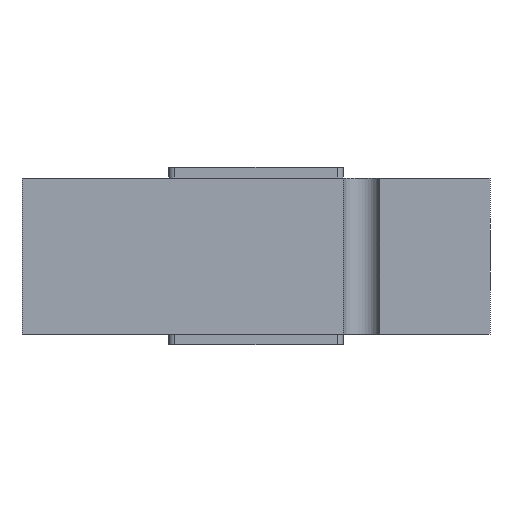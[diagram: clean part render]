
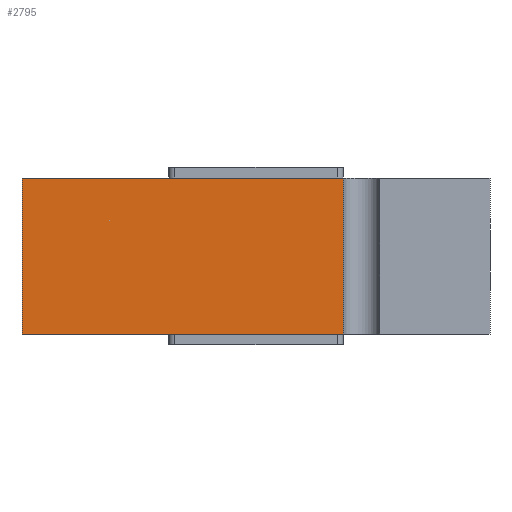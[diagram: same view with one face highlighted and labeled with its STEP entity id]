
A CAD part, left-side view. The second image highlights one B-rep face of the part: STEP entity #2795.
In plain terms, the highlighted planar face has unit normal (-1, 0, 0).
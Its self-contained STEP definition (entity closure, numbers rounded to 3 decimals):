
#52 = VERTEX_POINT ( 'NONE', #10252 ) ;
#83 = VERTEX_POINT ( 'NONE', #10296 ) ;
#84 = VERTEX_POINT ( 'NONE', #10291 ) ;
#96 = VERTEX_POINT ( 'NONE', #10350 ) ;
#1650 = ORIENTED_EDGE ( 'NONE', *, *, #6497, .T. ) ;
#1651 = ORIENTED_EDGE ( 'NONE', *, *, #6493, .F. ) ;
#1652 = ORIENTED_EDGE ( 'NONE', *, *, #6499, .F. ) ;
#1653 = ORIENTED_EDGE ( 'NONE', *, *, #6483, .T. ) ;
#1828 = EDGE_LOOP ( 'NONE', ( #1653, #1652, #1651, #1650 ) ) ;
#2073 = CARTESIAN_POINT ( 'NONE',  ( -50.8, 0., 0. ) ) ;
#2074 = DIRECTION ( 'NONE',  ( 0., -1., 0. ) ) ;
#2093 = DIRECTION ( 'NONE',  ( 0., 0., -1. ) ) ;
#2100 = CARTESIAN_POINT ( 'NONE',  ( -50.8, 0., 25.5 ) ) ;
#2101 = DIRECTION ( 'NONE',  ( 0., -1., 0. ) ) ;
#2103 = CARTESIAN_POINT ( 'NONE',  ( -50.8, -52.5, 25.5 ) ) ;
#2108 = CARTESIAN_POINT ( 'NONE',  ( -50.8, 0., 25.5 ) ) ;
#2109 = DIRECTION ( 'NONE',  ( 0., 0., -1. ) ) ;
#2795 = ADVANCED_FACE ( 'NONE', ( #3274 ), #5376, .F. ) ;
#3274 = FACE_OUTER_BOUND ( 'NONE', #1828, .T. ) ;
#5373 = CARTESIAN_POINT ( 'NONE',  ( -50.8, 0., 25.5 ) ) ;
#5376 = PLANE ( 'NONE',  #6557 ) ;
#5378 = DIRECTION ( 'NONE',  ( 1., 0., 0. ) ) ;
#5380 = DIRECTION ( 'NONE',  ( 0., 1., 0. ) ) ;
#6483 = EDGE_CURVE ( 'NONE', #96, #83, #10593, .T. ) ;
#6493 = EDGE_CURVE ( 'NONE', #52, #84, #10608, .T. ) ;
#6497 = EDGE_CURVE ( 'NONE', #52, #96, #10616, .T. ) ;
#6499 = EDGE_CURVE ( 'NONE', #84, #83, #10620, .T. ) ;
#6557 = AXIS2_PLACEMENT_3D ( 'NONE', #5373, #5378, #5380 ) ;
#10252 = CARTESIAN_POINT ( 'NONE',  ( -50.8, 0., 25.5 ) ) ;
#10291 = CARTESIAN_POINT ( 'NONE',  ( -50.8, -52.5, 25.5 ) ) ;
#10296 = CARTESIAN_POINT ( 'NONE',  ( -50.8, -52.5, 0. ) ) ;
#10350 = CARTESIAN_POINT ( 'NONE',  ( -50.8, 0., 0. ) ) ;
#10593 = LINE ( 'NONE', #2073, #10596 ) ;
#10596 = VECTOR ( 'NONE', #2074, 1000. ) ;
#10608 = LINE ( 'NONE', #2100, #10611 ) ;
#10611 = VECTOR ( 'NONE', #2101, 1000. ) ;
#10616 = LINE ( 'NONE', #2108, #10619 ) ;
#10619 = VECTOR ( 'NONE', #2109, 1000. ) ;
#10620 = LINE ( 'NONE', #2103, #10622 ) ;
#10622 = VECTOR ( 'NONE', #2093, 1000. ) ;
